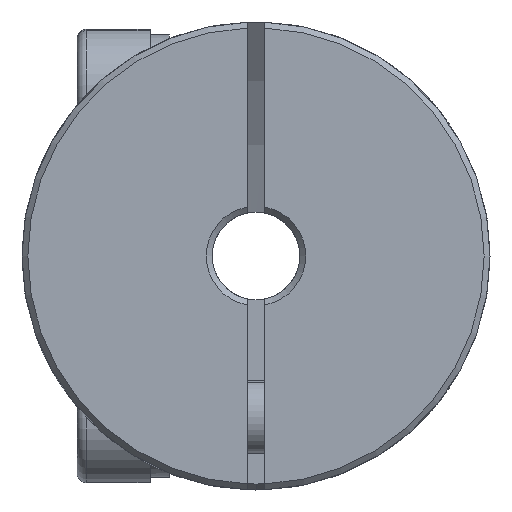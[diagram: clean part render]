
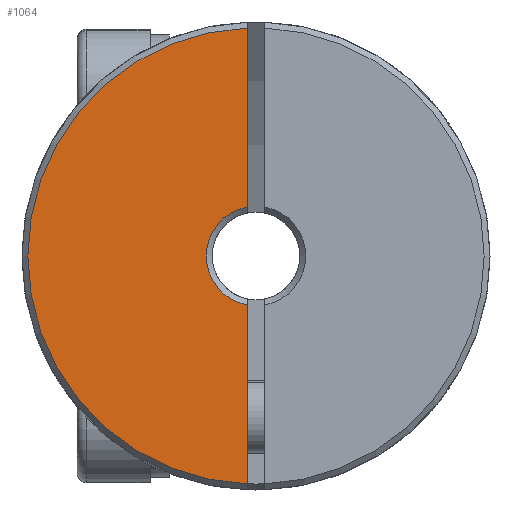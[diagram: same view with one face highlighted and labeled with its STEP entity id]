
A CAD part, front view. The second image highlights one B-rep face of the part: STEP entity #1064.
In plain terms, the highlighted planar face has unit normal (0, -1, 0).
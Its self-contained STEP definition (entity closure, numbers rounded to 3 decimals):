
#78 = ORIENTED_EDGE ( 'NONE', *, *, #7184, .F. ) ;
#220 = VECTOR ( 'NONE', #5601, 1000. ) ;
#409 = CARTESIAN_POINT ( 'NONE',  ( -0.3, -15.02, 7.794 ) ) ;
#423 = EDGE_CURVE ( 'NONE', #2597, #4703, #2091, .T. ) ;
#650 = ORIENTED_EDGE ( 'NONE', *, *, #7091, .T. ) ;
#784 = LINE ( 'NONE', #2117, #220 ) ;
#812 = CARTESIAN_POINT ( 'NONE',  ( -0.3, -15.02, 0. ) ) ;
#1064 = ADVANCED_FACE ( 'NONE', ( #4490 ), #4556, .F. ) ;
#1433 = CARTESIAN_POINT ( 'NONE',  ( 0., -15.02, 0. ) ) ;
#1486 = VERTEX_POINT ( 'NONE', #3282 ) ;
#2019 = DIRECTION ( 'NONE',  ( 0., 0., -1. ) ) ;
#2091 = CIRCLE ( 'NONE', #5143, 7.8 ) ;
#2117 = CARTESIAN_POINT ( 'NONE',  ( -0.3, -15.02, 0. ) ) ;
#2597 = VERTEX_POINT ( 'NONE', #409 ) ;
#3172 = VERTEX_POINT ( 'NONE', #4645 ) ;
#3240 = DIRECTION ( 'NONE',  ( 0., 0., 1. ) ) ;
#3282 = CARTESIAN_POINT ( 'NONE',  ( -0.3, -15.02, 1.673 ) ) ;
#3343 = DIRECTION ( 'NONE',  ( 0., 0., 1. ) ) ;
#3487 = ORIENTED_EDGE ( 'NONE', *, *, #6375, .F. ) ;
#3536 = LINE ( 'NONE', #812, #6505 ) ;
#3757 = AXIS2_PLACEMENT_3D ( 'NONE', #5902, #4738, #5933 ) ;
#4009 = CARTESIAN_POINT ( 'NONE',  ( 0., -15.02, 0. ) ) ;
#4244 = CARTESIAN_POINT ( 'NONE',  ( -0.3, -15.02, -7.794 ) ) ;
#4380 = CIRCLE ( 'NONE', #3757, 1.7 ) ;
#4490 = FACE_OUTER_BOUND ( 'NONE', #4610, .T. ) ;
#4556 = PLANE ( 'NONE',  #5745 ) ;
#4610 = EDGE_LOOP ( 'NONE', ( #3487, #6661, #78, #650 ) ) ;
#4645 = CARTESIAN_POINT ( 'NONE',  ( -0.3, -15.02, -1.673 ) ) ;
#4703 = VERTEX_POINT ( 'NONE', #4244 ) ;
#4738 = DIRECTION ( 'NONE',  ( 0., 1., 0. ) ) ;
#5143 = AXIS2_PLACEMENT_3D ( 'NONE', #1433, #6785, #3240 ) ;
#5601 = DIRECTION ( 'NONE',  ( 0., 0., -1. ) ) ;
#5745 = AXIS2_PLACEMENT_3D ( 'NONE', #4009, #6895, #3343 ) ;
#5902 = CARTESIAN_POINT ( 'NONE',  ( 0., -15.02, 0. ) ) ;
#5933 = DIRECTION ( 'NONE',  ( 0., 0., 1. ) ) ;
#6375 = EDGE_CURVE ( 'NONE', #2597, #1486, #784, .T. ) ;
#6505 = VECTOR ( 'NONE', #2019, 1000. ) ;
#6661 = ORIENTED_EDGE ( 'NONE', *, *, #423, .T. ) ;
#6785 = DIRECTION ( 'NONE',  ( 0., -1., 0. ) ) ;
#6895 = DIRECTION ( 'NONE',  ( 0., 1., 0. ) ) ;
#7091 = EDGE_CURVE ( 'NONE', #3172, #1486, #4380, .T. ) ;
#7184 = EDGE_CURVE ( 'NONE', #3172, #4703, #3536, .T. ) ;
